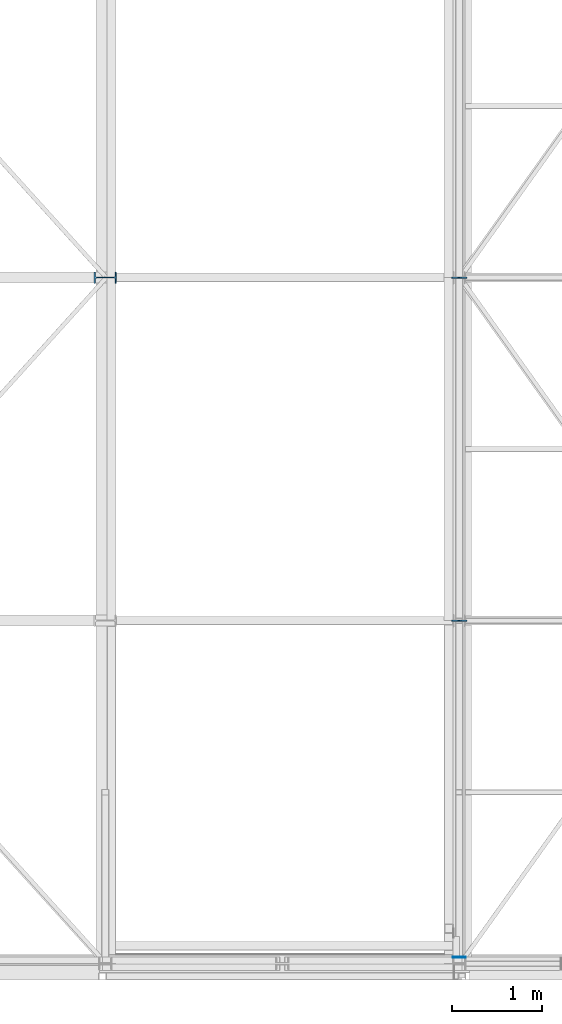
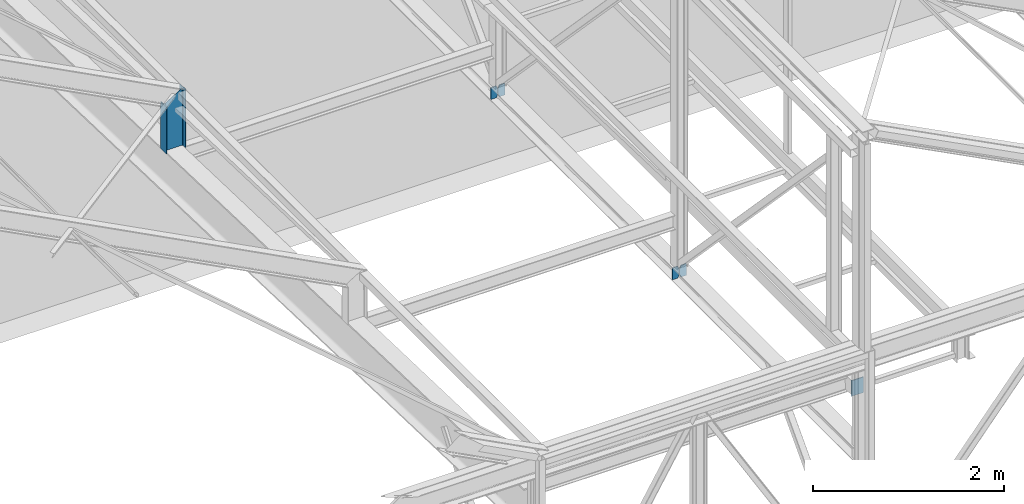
# One storey, part 79 of 123: 6 discrete accessories, 3 elements without a shape of their own.
"""IFC2X3 building model written with IfcOpenShell, lengths in millimetres."""

from ifc_helpers import new_model, si_unit, frame, origin_with_axes, origin_2d_with_axis, place, context, subcontext, project, spatial, polyline, i_section, outline, extrude, clip, halfspace, material, type_object, element, aggregate, save


model = new_model("IFC2X3")

# Units and contexts
model_context = context("Model", 3, precision=1e-05, world=origin_with_axes())
body_context = subcontext(model_context, "Body", "Model", "MODEL_VIEW")
ifc_project = project(units=[si_unit("LENGTHUNIT", "METRE", prefix="MILLI"), si_unit("AREAUNIT", "SQUARE_METRE"), si_unit("VOLUMEUNIT", "CUBIC_METRE"), si_unit("MASSUNIT", "GRAM", prefix="KILO"), si_unit("TIMEUNIT", "SECOND"), si_unit("PLANEANGLEUNIT", "RADIAN"), si_unit("SOLIDANGLEUNIT", "STERADIAN"), si_unit("THERMODYNAMICTEMPERATUREUNIT", "DEGREE_CELSIUS"), si_unit("LUMINOUSINTENSITYUNIT", "LUMEN")], contexts=[model_context])

# Site, building, storey
site_placement = place(None, origin_with_axes())
site = spatial("IfcSite", under=ifc_project, at=site_placement, Name="Undefined", CompositionType="ELEMENT")
building_placement = place(site_placement, origin_with_axes())
building = spatial("IfcBuilding", under=site, at=building_placement, Name="Undefined", CompositionType="ELEMENT")
storey_placement = place(building_placement, origin_with_axes())
storey = spatial("IfcBuildingStorey", under=building, at=storey_placement, Name="Undefined", CompositionType="ELEMENT", Elevation=0.0)

# Assembly, discrete accessories
assembly_1_placement = place(storey_placement, origin_with_axes())
assembly_1 = element("IfcElementAssembly", 1, at=assembly_1_placement, inside=storey, Name="Steel Assembly", AssemblyPlace="NOTDEFINED", PredefinedType="RIGID_FRAME")
ifc_material_1 = material(Name="STEEL/S235-E24")
discrete_accessory_type_1 = type_object("IfcDiscreteAccessoryType", Name="RAIDISSEUR")
discrete_accessory_1_placement = place(assembly_1_placement, frame((23552.9999999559, 3800.00000004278, 7089.5), z_axis=(0.0, 1.0, 0.0), x_axis=(-1.0, 0.0, 0.0)))
discrete_accessory_1 = element("IfcDiscreteAccessory", 2, at=discrete_accessory_1_placement, type_object=discrete_accessory_type_1, material=ifc_material_1, Name="RAIDISSEUR", ObjectType="TOLE10*80", context=body_context, shape_type="SweptSolid", body=[
    extrude(outline(polyline([(0.0, 0.0), (65.0, 0.0), (80.0, 40.0), (80.0, 110.0), (65.0, 150.0), (0.0, 150.0), (0.0, 0.0)])), frame((0.0, 0.0, -5.0), z_axis=(0.0, 0.0, 1.0), x_axis=(1.0, 0.0, 0.0)), (0.0, 0.0, 1.0), 10.0),
])
discrete_accessory_2_placement = place(assembly_1_placement, frame((23466.9999999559, 3800.00000004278, 7089.5), z_axis=(0.0, 1.0, 0.0), x_axis=(-1.0, 0.0, 0.0)))
discrete_accessory_2 = element("IfcDiscreteAccessory", 3, at=discrete_accessory_2_placement, type_object=discrete_accessory_type_1, material=ifc_material_1, Name="RAIDISSEUR", ObjectType="TOLE10*80", context=body_context, shape_type="SweptSolid", body=[
    extrude(outline(polyline([(0.0, 40.0), (15.0, 0.0), (80.0, 0.0), (80.0, 150.0), (15.0, 150.0), (0.0, 110.0), (0.0, 40.0)])), frame((0.0, 0.0, -5.0), z_axis=(0.0, 0.0, 1.0), x_axis=(1.0, 0.0, 0.0)), (0.0, 0.0, 1.0), 10.0),
])
discrete_accessory_3_placement = place(assembly_1_placement, frame((23552.9999999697, 7600.00000004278, 7089.5), z_axis=(0.0, 1.0, 0.0), x_axis=(-1.0, 0.0, 0.0)))
discrete_accessory_3 = element("IfcDiscreteAccessory", 4, at=discrete_accessory_3_placement, type_object=discrete_accessory_type_1, material=ifc_material_1, Name="RAIDISSEUR", ObjectType="TOLE10*80", context=body_context, shape_type="SweptSolid", body=[
    extrude(outline(polyline([(0.0, 0.0), (65.0, 0.0), (80.0, 40.0), (80.0, 110.0), (65.0, 150.0), (0.0, 150.0), (0.0, 0.0)])), frame((0.0, 0.0, -5.0), z_axis=(0.0, 0.0, 1.0), x_axis=(1.0, 0.0, 0.0)), (0.0, 0.0, 1.0), 10.0),
])
discrete_accessory_4_placement = place(assembly_1_placement, frame((23466.9999999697, 7600.00000004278, 7089.5), z_axis=(0.0, 1.0, 0.0), x_axis=(-1.0, 0.0, 0.0)))
discrete_accessory_4 = element("IfcDiscreteAccessory", 5, at=discrete_accessory_4_placement, type_object=discrete_accessory_type_1, material=ifc_material_1, Name="RAIDISSEUR", ObjectType="TOLE10*80", context=body_context, shape_type="SweptSolid", body=[
    extrude(outline(polyline([(0.0, 40.0), (15.0, 0.0), (80.0, 0.0), (80.0, 150.0), (15.0, 150.0), (0.0, 110.0), (0.0, 40.0)])), frame((0.0, 0.0, -5.0), z_axis=(0.0, 0.0, 1.0), x_axis=(1.0, 0.0, 0.0)), (0.0, 0.0, 1.0), 10.0),
])
aggregate(assembly_1, [discrete_accessory_1, discrete_accessory_2, discrete_accessory_3, discrete_accessory_4])

# Assembly, discrete accessory
assembly_2_placement = place(storey_placement, origin_with_axes())
assembly_2 = element("IfcElementAssembly", 6, at=assembly_2_placement, inside=storey, Name="Steel Assembly", AssemblyPlace="NOTDEFINED", PredefinedType="RIGID_FRAME")
ifc_material_2 = material(Name="STEEL/S275-E28")
discrete_accessory_type_2 = type_object("IfcDiscreteAccessoryType", Name="PLAT")
discrete_accessory_5_placement = place(assembly_2_placement, frame((23470.00000177, 70.0, 8057.59802984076), z_axis=(0.0, 1.0, 0.0), x_axis=(0.0, 0.0, -1.0)))
discrete_accessory_5 = element("IfcDiscreteAccessory", 7, at=discrete_accessory_5_placement, type_object=discrete_accessory_type_2, material=ifc_material_2, Name="PLAT", ObjectType="PL10*140", context=body_context, shape_type="SweptSolid", body=[
    extrude(outline(polyline([(199.999999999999, 70.0), (199.999999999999, -70.0), (0.0, -70.0), (0.0, 70.0), (199.999999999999, 70.0)])), frame((0.0, 0.0, -5.0), z_axis=(0.0, 0.0, 1.0), x_axis=(1.0, 0.0, 0.0)), (0.0, 0.0, 1.0), 10.0),
])
aggregate(assembly_2, [discrete_accessory_5])

assembly_3_placement = place(storey_placement, origin_with_axes())
assembly_3 = element("IfcElementAssembly", 8, at=assembly_3_placement, inside=storey, Name="Steel Assembly", AssemblyPlace="NOTDEFINED", PredefinedType="RIGID_FRAME")
discrete_accessory_type_3 = type_object("IfcDiscreteAccessoryType", Name="TRAVERSE SHED")
discrete_accessory_6_placement = place(assembly_3_placement, frame((19550.0, 7600.0, 7811.1603785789), z_axis=(0.0, 0.0, 1.0), x_axis=(-1.0, 0.0, 0.0)))
discrete_accessory_6 = element("IfcDiscreteAccessory", 9, at=discrete_accessory_6_placement, type_object=discrete_accessory_type_3, material=ifc_material_2, Name="TRAVERSE SHED", ObjectType="IPE240", context=body_context, shape_type="Clipping", body=[
    clip(extrude(i_section(OverallWidth=120.0, OverallDepth=240.0, WebThickness=6.199999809, FlangeThickness=9.800000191, FilletRadius=15.0, at=origin_2d_with_axis()), frame((0.0, 0.0, 739.566153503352), z_axis=(0.0, 0.0, -1.0), x_axis=(0.0, 1.0, 0.0)), (0.0, 0.0, 1.0), 739.6), halfspace(frame((-120.000000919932, 3800.0, 738.839623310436), z_axis=(0.517914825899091, 0.0, 0.855432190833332), x_axis=(0.0, 1.0, 0.0)), False)),
])
aggregate(assembly_3, [discrete_accessory_6])

save(model, "model.ifc")
